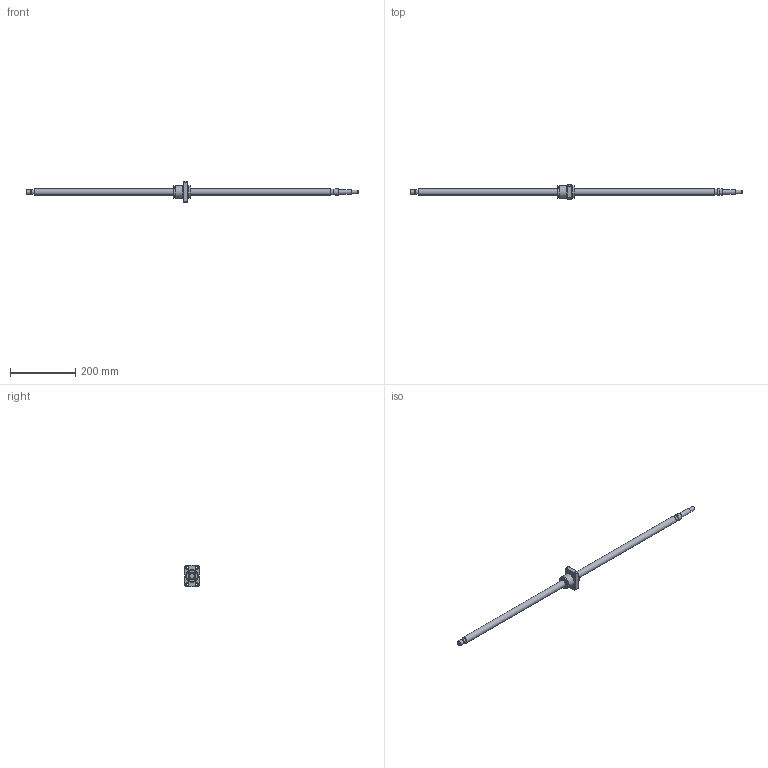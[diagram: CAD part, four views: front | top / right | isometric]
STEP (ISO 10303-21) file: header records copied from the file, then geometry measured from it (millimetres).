
FILE_DESCRIPTION(/* description */ ('STEP AP203'),/* implementation_level */ '2;1');
FILE_NAME(/* name */ 'BNK2020-3.6G0+1020LC5Y(4810)',/* time_stamp */ '2024-07-09T09:40:32+02:00',/* author */ ('License CC BY-ND 4.0'),/* organization */ ('CADENAS'),/* preprocessor_version */ 'ST-DEVELOPER v19.3',/* originating_system */ 'PARTsolutions',/* authorisation */ ' ');
FILE_SCHEMA (('CONFIG_CONTROL_DESIGN'));
Length unit declared in the file: millimetre
Products named in the file (3): BNK2020-3.6G0+1020LC5Y(4810); BNK 2020-3.6G0+1020LC5Y Shaft; BNK 2020-3.6G0+1020LC5Y0 Nut
Assembly tree (2 placements, depth 2):
  BNK2020-3.6G0+1020LC5Y(4810)
    BNK 2020-3.6G0+1020LC5Y Shaft
    BNK 2020-3.6G0+1020LC5Y0 Nut
Bounding box: 1020 x 46 x 66 mm (x, y, z)
Volume: 365466.9 mm3; surface area: 80781 mm2
Topology: 2 solids, 2 shells, 136 faces, 309 edges, 199 vertices
Faces by surface type: plane 75, cylinder 35, cone 20, torus 6
Full cylindrical faces by diameter (mm): 5.188 x1, 5.5 x4, 6.6 x4, 11 x4, 12 x1, 14.3 x1, 15 x3, 18 x1, 19.5 x1, 20 x2, 35.1 x1, 38 x2, 39 x2
Entity records: 3695 total; most frequent: CARTESIAN_POINT 671, DIRECTION 626, ORIENTED_EDGE 528, EDGE_CURVE 264, AXIS2_PLACEMENT_3D 247, FACE_BOUND 210, EDGE_LOOP 209, VERTEX_POINT 196
